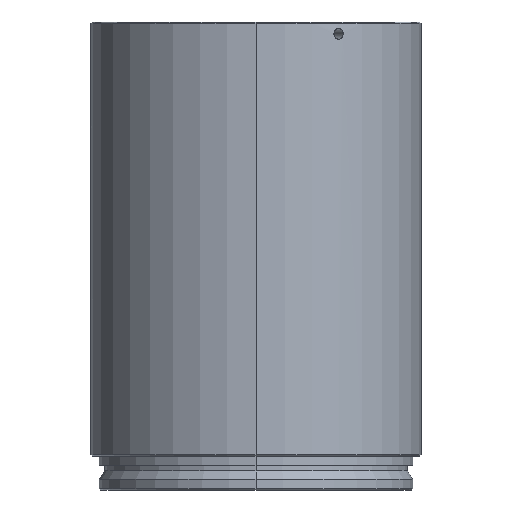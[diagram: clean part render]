
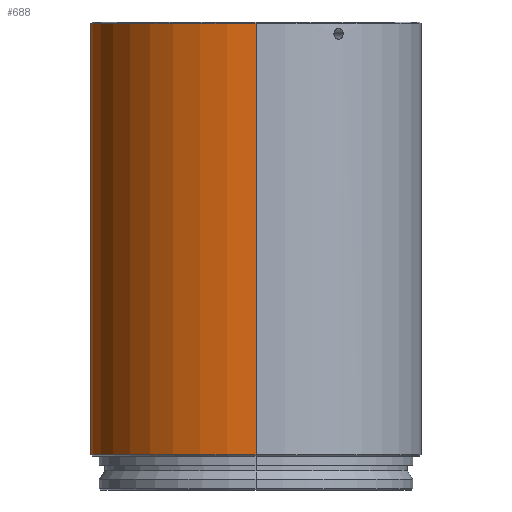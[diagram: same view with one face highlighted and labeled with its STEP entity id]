
A CAD part, left-side view. The second image highlights one B-rep face of the part: STEP entity #688.
In plain terms, the highlighted cylindrical face has radius 39 mm (diameter 78 mm), a partial arc.
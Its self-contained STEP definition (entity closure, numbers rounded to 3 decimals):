
#3 = CARTESIAN_POINT ( 'NONE',  ( -0.767, 38.993, 147.049 ) ) ;
#34 = DIRECTION ( 'NONE',  ( 1., 0., 0. ) ) ;
#42 = CARTESIAN_POINT ( 'NONE',  ( 0.328, 38.999, 146.832 ) ) ;
#80 = DIRECTION ( 'NONE',  ( -1., 0., 0. ) ) ;
#85 = CARTESIAN_POINT ( 'NONE',  ( -1.25, 38.98, 147.886 ) ) ;
#96 = VERTEX_POINT ( 'NONE', #972 ) ;
#112 = EDGE_LOOP ( 'NONE', ( #1088, #845, #447, #475 ) ) ;
#121 = EDGE_LOOP ( 'NONE', ( #693, #1201 ) ) ;
#148 = VERTEX_POINT ( 'NONE', #1085 ) ;
#162 = CARTESIAN_POINT ( 'NONE',  ( -1.218, 38.981, 147.723 ) ) ;
#173 = CARTESIAN_POINT ( 'NONE',  ( -0.165, 39., 149.299 ) ) ;
#179 = CARTESIAN_POINT ( 'NONE',  ( -1.217, 38.981, 148.377 ) ) ;
#204 = CARTESIAN_POINT ( 'NONE',  ( 39., 0., 150.549 ) ) ;
#219 = LINE ( 'NONE', #787, #591 ) ;
#230 = CARTESIAN_POINT ( 'NONE',  ( 0.329, 38.999, 149.266 ) ) ;
#234 = CARTESIAN_POINT ( 'NONE',  ( 0.999, 38.987, 147.28 ) ) ;
#240 = LINE ( 'NONE', #968, #306 ) ;
#241 = EDGE_CURVE ( 'NONE', #148, #638, #432, .T. ) ;
#306 = VECTOR ( 'NONE', #879, 1000. ) ;
#309 = AXIS2_PLACEMENT_3D ( 'NONE', #564, #1048, #34 ) ;
#316 = CARTESIAN_POINT ( 'NONE',  ( 0.769, 38.993, 149.048 ) ) ;
#334 = CARTESIAN_POINT ( 'NONE',  ( 0., 39., 146.799 ) ) ;
#344 = EDGE_CURVE ( 'NONE', #148, #1069, #219, .T. ) ;
#362 = CARTESIAN_POINT ( 'NONE',  ( 0., 39., 149.299 ) ) ;
#380 = DIRECTION ( 'NONE',  ( 0., 0., 1. ) ) ;
#407 = CARTESIAN_POINT ( 'NONE',  ( 1.25, 38.98, 148.213 ) ) ;
#412 = CARTESIAN_POINT ( 'NONE',  ( 1.092, 38.985, 147.418 ) ) ;
#418 = CARTESIAN_POINT ( 'NONE',  ( 0.163, 39., 146.799 ) ) ;
#428 = B_SPLINE_CURVE_WITH_KNOTS ( 'NONE', 3,
 ( #334, #418, #42, #786, #706, #234, #412, #1072, #1060, #407, #1158, #790, #1064, #981, #780, #316, #987, #230, #602, #691 ),
 .UNSPECIFIED., .F., .F.,
 ( 4, 2, 2, 2, 2, 2, 2, 2, 2, 4 ),
 ( 0.004, 0.004, 0.005, 0.005, 0.006, 0.006, 0.007, 0.007, 0.007, 0.008 ),
 .UNSPECIFIED. ) ;
#432 = CIRCLE ( 'NONE', #726, 39. ) ;
#447 = ORIENTED_EDGE ( 'NONE', *, *, #958, .T. ) ;
#449 = CARTESIAN_POINT ( 'NONE',  ( -0.769, 38.993, 149.048 ) ) ;
#454 = CARTESIAN_POINT ( 'NONE',  ( -0.164, 39., 146.807 ) ) ;
#464 = DIRECTION ( 'NONE',  ( 1., 0., 0. ) ) ;
#475 = ORIENTED_EDGE ( 'NONE', *, *, #344, .F. ) ;
#510 = EDGE_CURVE ( 'NONE', #991, #619, #428, .T. ) ;
#529 = EDGE_CURVE ( 'NONE', #638, #96, #240, .T. ) ;
#540 = CARTESIAN_POINT ( 'NONE',  ( -0.999, 38.987, 148.817 ) ) ;
#564 = CARTESIAN_POINT ( 'NONE',  ( 0., 0., 179.046 ) ) ;
#565 = AXIS2_PLACEMENT_3D ( 'NONE', #628, #1200, #80 ) ;
#567 = EDGE_CURVE ( 'NONE', #619, #991, #1143, .T. ) ;
#573 = CARTESIAN_POINT ( 'NONE',  ( 0., 39., 146.799 ) ) ;
#591 = VECTOR ( 'NONE', #609, 1000. ) ;
#602 = CARTESIAN_POINT ( 'NONE',  ( 0.165, 39., 149.299 ) ) ;
#609 = DIRECTION ( 'NONE',  ( 0., 0., 1. ) ) ;
#619 = VERTEX_POINT ( 'NONE', #814 ) ;
#628 = CARTESIAN_POINT ( 'NONE',  ( 0., 0., 150.549 ) ) ;
#631 = CARTESIAN_POINT ( 'NONE',  ( -0.327, 38.999, 149.266 ) ) ;
#636 = CARTESIAN_POINT ( 'NONE',  ( -0.63, 38.995, 149.141 ) ) ;
#638 = VERTEX_POINT ( 'NONE', #1186 ) ;
#654 = CYLINDRICAL_SURFACE ( 'NONE', #309, 39. ) ;
#688 = ADVANCED_FACE ( 'NONE', ( #1118, #1027 ), #654, .T. ) ;
#691 = CARTESIAN_POINT ( 'NONE',  ( 0., 39., 149.299 ) ) ;
#693 = ORIENTED_EDGE ( 'NONE', *, *, #567, .T. ) ;
#706 = CARTESIAN_POINT ( 'NONE',  ( 0.768, 38.993, 147.049 ) ) ;
#726 = AXIS2_PLACEMENT_3D ( 'NONE', #1050, #380, #464 ) ;
#729 = CARTESIAN_POINT ( 'NONE',  ( -1.092, 38.985, 147.42 ) ) ;
#740 = CARTESIAN_POINT ( 'NONE',  ( -1.001, 38.987, 147.282 ) ) ;
#780 = CARTESIAN_POINT ( 'NONE',  ( 0.942, 38.989, 148.875 ) ) ;
#786 = CARTESIAN_POINT ( 'NONE',  ( 0.628, 38.995, 146.956 ) ) ;
#787 = CARTESIAN_POINT ( 'NONE',  ( 39., 0., 179.046 ) ) ;
#790 = CARTESIAN_POINT ( 'NONE',  ( 1.124, 38.984, 148.602 ) ) ;
#814 = CARTESIAN_POINT ( 'NONE',  ( 0., 39., 149.299 ) ) ;
#816 = CIRCLE ( 'NONE', #565, 39. ) ;
#827 = CARTESIAN_POINT ( 'NONE',  ( -0.082, 39., 146.799 ) ) ;
#845 = ORIENTED_EDGE ( 'NONE', *, *, #529, .T. ) ;
#879 = DIRECTION ( 'NONE',  ( 0., 0., 1. ) ) ;
#915 = CARTESIAN_POINT ( 'NONE',  ( -0.63, 38.995, 146.957 ) ) ;
#958 = EDGE_CURVE ( 'NONE', #96, #1069, #816, .T. ) ;
#968 = CARTESIAN_POINT ( 'NONE',  ( -39., 0., 179.046 ) ) ;
#972 = CARTESIAN_POINT ( 'NONE',  ( -39., 0., 150.549 ) ) ;
#981 = CARTESIAN_POINT ( 'NONE',  ( 0.995, 38.987, 148.81 ) ) ;
#987 = CARTESIAN_POINT ( 'NONE',  ( 0.63, 38.995, 149.141 ) ) ;
#991 = VERTEX_POINT ( 'NONE', #573 ) ;
#993 = CARTESIAN_POINT ( 'NONE',  ( 0., 39., 146.799 ) ) ;
#1011 = CARTESIAN_POINT ( 'NONE',  ( -1.092, 38.985, 148.678 ) ) ;
#1017 = CARTESIAN_POINT ( 'NONE',  ( -0.403, 38.998, 146.863 ) ) ;
#1027 = FACE_OUTER_BOUND ( 'NONE', #112, .T. ) ;
#1048 = DIRECTION ( 'NONE',  ( 0., 0., 1. ) ) ;
#1050 = CARTESIAN_POINT ( 'NONE',  ( 0., 0., 48.6 ) ) ;
#1060 = CARTESIAN_POINT ( 'NONE',  ( 1.25, 38.98, 147.883 ) ) ;
#1064 = CARTESIAN_POINT ( 'NONE',  ( 1.085, 38.985, 148.674 ) ) ;
#1069 = VERTEX_POINT ( 'NONE', #204 ) ;
#1072 = CARTESIAN_POINT ( 'NONE',  ( 1.217, 38.981, 147.721 ) ) ;
#1085 = CARTESIAN_POINT ( 'NONE',  ( 39., 0., 48.6 ) ) ;
#1088 = ORIENTED_EDGE ( 'NONE', *, *, #241, .T. ) ;
#1101 = CARTESIAN_POINT ( 'NONE',  ( -0.325, 38.999, 146.839 ) ) ;
#1118 = FACE_BOUND ( 'NONE', #121, .T. ) ;
#1143 = B_SPLINE_CURVE_WITH_KNOTS ( 'NONE', 3,
 ( #362, #173, #631, #636, #449, #540, #1011, #179, #1198, #85, #162, #729, #740, #3, #915, #1017, #1101, #454, #827, #993 ),
 .UNSPECIFIED., .F., .F.,
 ( 4, 2, 2, 2, 2, 2, 2, 2, 2, 4 ),
 ( 0., 0., 0.001, 0.001, 0.002, 0.002, 0.003, 0.003, 0.004, 0.004 ),
 .UNSPECIFIED. ) ;
#1158 = CARTESIAN_POINT ( 'NONE',  ( 1.218, 38.981, 148.375 ) ) ;
#1186 = CARTESIAN_POINT ( 'NONE',  ( -39., 0., 48.6 ) ) ;
#1198 = CARTESIAN_POINT ( 'NONE',  ( -1.25, 38.98, 148.213 ) ) ;
#1200 = DIRECTION ( 'NONE',  ( 0., 0., -1. ) ) ;
#1201 = ORIENTED_EDGE ( 'NONE', *, *, #510, .T. ) ;
